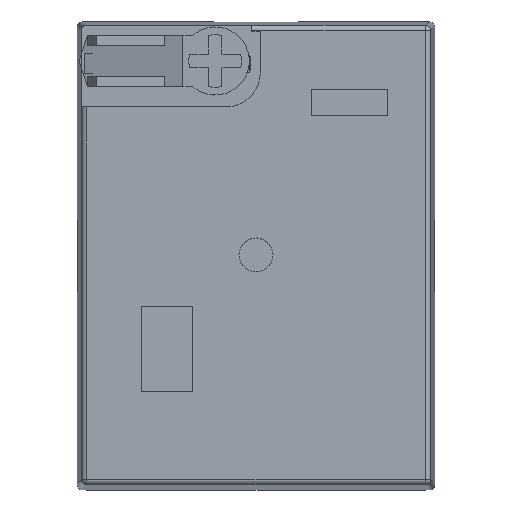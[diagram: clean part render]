
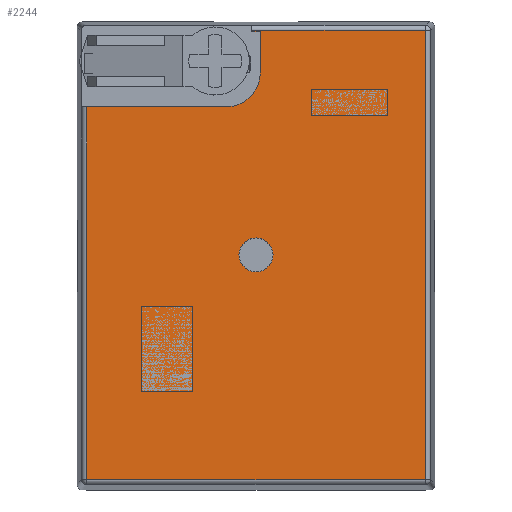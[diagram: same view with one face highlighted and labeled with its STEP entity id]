
A CAD part, top view. The second image highlights one B-rep face of the part: STEP entity #2244.
In plain terms, the highlighted planar face has unit normal (0, 0, 1).
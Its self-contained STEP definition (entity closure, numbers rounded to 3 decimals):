
#2244=ADVANCED_FACE('',(#3546,#3547),#3138,.F.);
#3138=PLANE('',#21008);
#3546=FACE_BOUND('',#4511,.T.);
#3547=FACE_BOUND('',#4512,.T.);
#4511=EDGE_LOOP('',(#9282));
#4512=EDGE_LOOP('',(#9283,#9284,#9285,#9286,#9287,#9288,#9289,#9290,#9291));
#5055=CIRCLE('',#21006,1.);
#5056=CIRCLE('',#21007,2.);
#9282=ORIENTED_EDGE('',*,*,#14626,.F.);
#9283=ORIENTED_EDGE('',*,*,#14627,.T.);
#9284=ORIENTED_EDGE('',*,*,#14628,.T.);
#9285=ORIENTED_EDGE('',*,*,#14629,.F.);
#9286=ORIENTED_EDGE('',*,*,#14630,.F.);
#9287=ORIENTED_EDGE('',*,*,#14631,.T.);
#9288=ORIENTED_EDGE('',*,*,#14632,.T.);
#9289=ORIENTED_EDGE('',*,*,#14633,.T.);
#9290=ORIENTED_EDGE('',*,*,#14634,.T.);
#9291=ORIENTED_EDGE('',*,*,#14635,.T.);
#12095=VERTEX_POINT('',#32112);
#12096=VERTEX_POINT('',#32114);
#12097=VERTEX_POINT('',#32115);
#12098=VERTEX_POINT('',#32117);
#12099=VERTEX_POINT('',#32119);
#12100=VERTEX_POINT('',#32121);
#12101=VERTEX_POINT('',#32123);
#12102=VERTEX_POINT('',#32125);
#12103=VERTEX_POINT('',#32127);
#12104=VERTEX_POINT('',#32129);
#14626=EDGE_CURVE('',#12095,#12095,#5055,.T.);
#14627=EDGE_CURVE('',#12096,#12097,#17078,.T.);
#14628=EDGE_CURVE('',#12097,#12098,#17079,.T.);
#14629=EDGE_CURVE('',#12099,#12098,#17080,.T.);
#14630=EDGE_CURVE('',#12100,#12099,#17081,.T.);
#14631=EDGE_CURVE('',#12100,#12101,#17082,.T.);
#14632=EDGE_CURVE('',#12101,#12102,#5056,.T.);
#14633=EDGE_CURVE('',#12102,#12103,#17083,.T.);
#14634=EDGE_CURVE('',#12103,#12104,#17084,.T.);
#14635=EDGE_CURVE('',#12104,#12096,#17085,.T.);
#17078=LINE('',#32113,#19473);
#17079=LINE('',#32116,#19474);
#17080=LINE('',#32118,#19475);
#17081=LINE('',#32120,#19476);
#17082=LINE('',#32122,#19477);
#17083=LINE('',#32126,#19478);
#17084=LINE('',#32128,#19479);
#17085=LINE('',#32130,#19480);
#19473=VECTOR('',#25101,1.);
#19474=VECTOR('',#25102,1.);
#19475=VECTOR('',#25103,1.);
#19476=VECTOR('',#25104,1.);
#19477=VECTOR('',#25105,1.);
#19478=VECTOR('',#25108,1.);
#19479=VECTOR('',#25109,1.);
#19480=VECTOR('',#25110,1.);
#21006=AXIS2_PLACEMENT_3D('',#32111,#25099,#25100);
#21007=AXIS2_PLACEMENT_3D('',#32124,#25106,#25107);
#21008=AXIS2_PLACEMENT_3D('',#32131,#25111,#25112);
#25099=DIRECTION('',(0.,0.,1.));
#25100=DIRECTION('',(-1.,0.,0.));
#25101=DIRECTION('',(0.,1.,0.));
#25102=DIRECTION('',(-1.,0.,0.));
#25103=DIRECTION('',(0.,1.,0.));
#25104=DIRECTION('',(-1.,0.,0.));
#25105=DIRECTION('',(0.,-1.,0.));
#25106=DIRECTION('',(0.,0.,-1.));
#25107=DIRECTION('',(-1.,0.,0.));
#25108=DIRECTION('',(-1.,0.,0.));
#25109=DIRECTION('',(0.,-1.,0.));
#25110=DIRECTION('',(1.,0.,0.));
#25111=DIRECTION('',(0.,0.,-1.));
#25112=DIRECTION('',(-1.,0.,0.));
#32111=CARTESIAN_POINT('',(0.,0.025,35.));
#32112=CARTESIAN_POINT('',(-1.,0.025,35.));
#32113=CARTESIAN_POINT('',(9.952,13.525,35.));
#32114=CARTESIAN_POINT('',(9.952,-13.177,35.));
#32115=CARTESIAN_POINT('',(9.952,13.227,35.));
#32116=CARTESIAN_POINT('',(-0.25,13.227,35.));
#32117=CARTESIAN_POINT('',(-0.25,13.227,35.));
#32118=CARTESIAN_POINT('',(-0.25,13.141,35.));
#32119=CARTESIAN_POINT('',(-0.25,13.141,35.));
#32120=CARTESIAN_POINT('',(0.542,13.141,35.));
#32121=CARTESIAN_POINT('',(0.25,13.141,35.));
#32122=CARTESIAN_POINT('',(0.25,16.125,35.));
#32123=CARTESIAN_POINT('',(0.25,10.725,35.));
#32124=CARTESIAN_POINT('',(-1.75,10.725,35.));
#32125=CARTESIAN_POINT('',(-1.75,8.725,35.));
#32126=CARTESIAN_POINT('',(0.25,8.725,35.));
#32127=CARTESIAN_POINT('',(-9.952,8.725,35.));
#32128=CARTESIAN_POINT('',(-9.952,-13.475,35.));
#32129=CARTESIAN_POINT('',(-9.952,-13.177,35.));
#32130=CARTESIAN_POINT('',(10.25,-13.177,35.));
#32131=CARTESIAN_POINT('',(-10.5,-13.725,35.));
